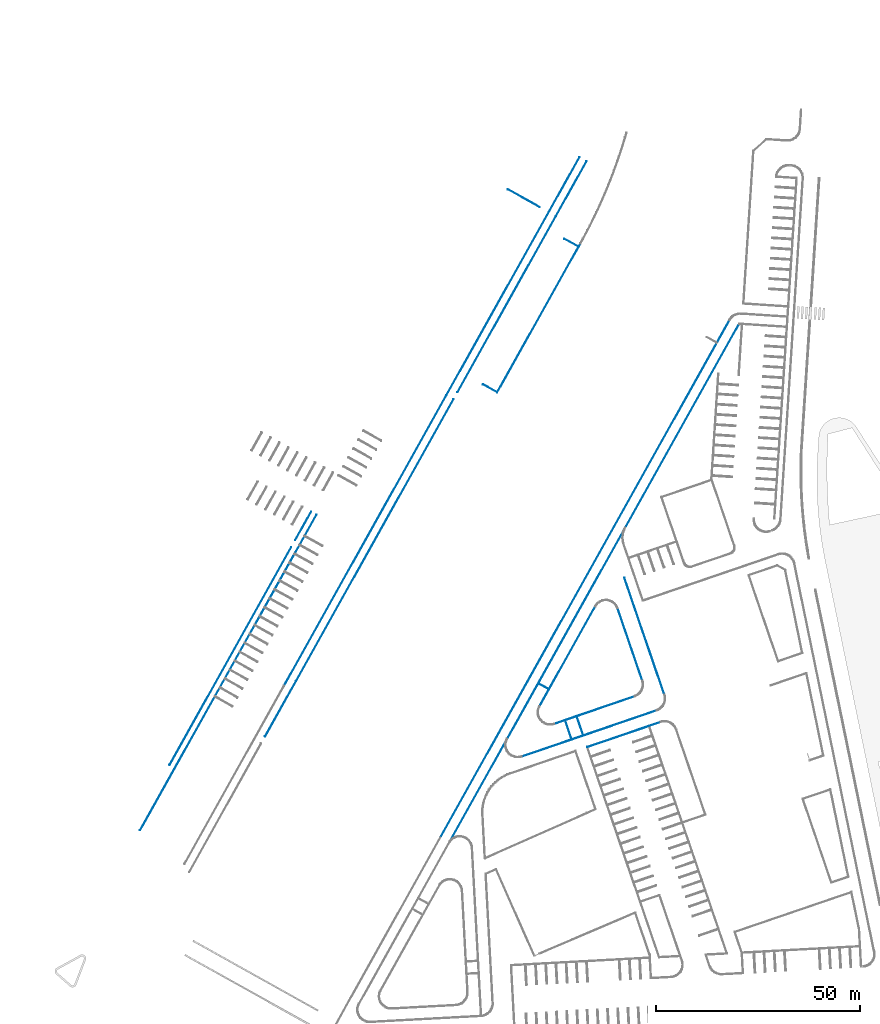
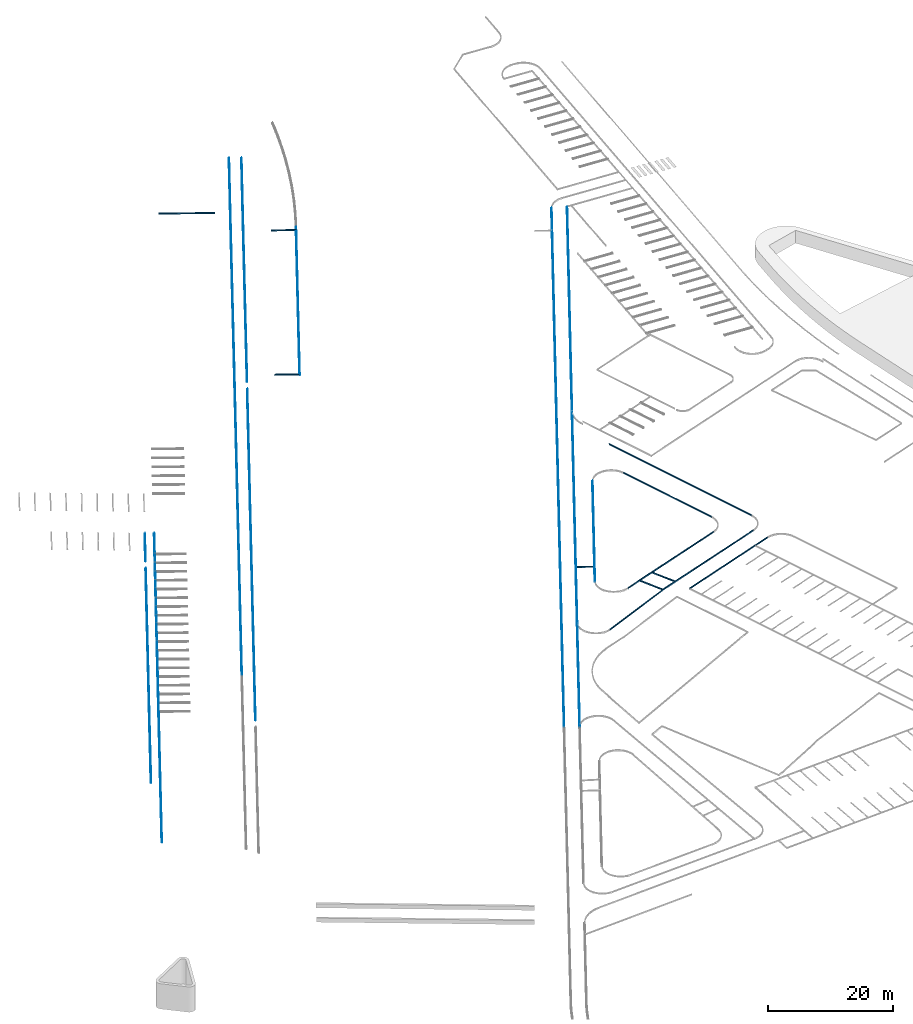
# One storey, part 5 of 112: 27 beams.
"""IFC2X3 building model written with IfcOpenShell, lengths in millimetres."""

from ifc_helpers import new_model, entity, si_unit, converted_unit, derived_unit, direction, frame, frame_2d, origin, origin_2d_with_axis, place, context, subcontext, project, spatial, polyline, rectangle, outline, extrude, material, type_object, element, save


model = new_model("IFC2X3")

# Units and contexts
model_context = context("Model", 3, precision=0.01, world=origin(), true_north=direction((6.123031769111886e-17, 1.0)))
body_context = subcontext(model_context, "Body", "Model", "MODEL_VIEW")
ifc_project = project(units=[si_unit("LENGTHUNIT", "METRE", prefix="MILLI"), si_unit("AREAUNIT", "SQUARE_METRE"), si_unit("VOLUMEUNIT", "CUBIC_METRE"), converted_unit("PLANEANGLEUNIT", "DEGREE", entity("IfcRatioMeasure", 0.017453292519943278), si_unit("PLANEANGLEUNIT", "RADIAN"), dimensions=[0, 0, 0, 0, 0, 0, 0]), si_unit("MASSUNIT", "GRAM", prefix="KILO"), derived_unit("MASSDENSITYUNIT", [(si_unit("MASSUNIT", "GRAM", prefix="KILO"), 1), (si_unit("LENGTHUNIT", "METRE"), -3)]), derived_unit("MOMENTOFINERTIAUNIT", [(si_unit("LENGTHUNIT", "METRE"), 4)]), si_unit("TIMEUNIT", "SECOND"), si_unit("FREQUENCYUNIT", "HERTZ"), si_unit("THERMODYNAMICTEMPERATUREUNIT", "DEGREE_CELSIUS"), derived_unit("THERMALTRANSMITTANCEUNIT", [(si_unit("MASSUNIT", "GRAM", prefix="KILO"), 1), (si_unit("THERMODYNAMICTEMPERATUREUNIT", "KELVIN"), -1), (si_unit("TIMEUNIT", "SECOND"), -3)]), derived_unit("THERMALCONDUCTANCEUNIT", [(si_unit("MASSUNIT", "GRAM", prefix="KILO"), 1), (si_unit("LENGTHUNIT", "METRE"), 1), (si_unit("THERMODYNAMICTEMPERATUREUNIT", "KELVIN"), -1), (si_unit("TIMEUNIT", "SECOND"), -3)]), derived_unit("VOLUMETRICFLOWRATEUNIT", [(si_unit("LENGTHUNIT", "METRE"), 3), (si_unit("TIMEUNIT", "SECOND"), -1)]), derived_unit("MASSFLOWRATEUNIT", [(si_unit("MASSUNIT", "GRAM", prefix="KILO"), 1), (si_unit("TIMEUNIT", "SECOND"), -1)]), derived_unit("ROTATIONALFREQUENCYUNIT", [(si_unit("TIMEUNIT", "SECOND"), -1)]), si_unit("ELECTRICCURRENTUNIT", "AMPERE"), si_unit("ELECTRICVOLTAGEUNIT", "VOLT"), si_unit("POWERUNIT", "WATT"), converted_unit("FORCEUNIT", "KIP", entity("IfcRatioMeasure", 2.088543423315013e-05), si_unit("FORCEUNIT", "NEWTON"), dimensions=[1, 1, -2, 0, 0, 0, 0]), si_unit("ILLUMINANCEUNIT", "LUX"), si_unit("LUMINOUSFLUXUNIT", "LUMEN"), si_unit("LUMINOUSINTENSITYUNIT", "CANDELA"), derived_unit("USERDEFINED", [(si_unit("MASSUNIT", "GRAM", prefix="KILO"), -1), (si_unit("LENGTHUNIT", "METRE"), -2), (si_unit("TIMEUNIT", "SECOND"), 3), (si_unit("LUMINOUSFLUXUNIT", "LUMEN"), 1)]), derived_unit("USERDEFINED", [(si_unit("MASSUNIT", "GRAM", prefix="KILO"), 1), (si_unit("LENGTHUNIT", "METRE"), 3), (si_unit("TIMEUNIT", "SECOND"), -3), (si_unit("ELECTRICCURRENTUNIT", "AMPERE"), -2)]), derived_unit("USERDEFINED", [(si_unit("LENGTHUNIT", "METRE"), 2), (si_unit("TIMEUNIT", "SECOND"), -2)]), derived_unit("SOUNDPOWERUNIT", [(si_unit("MASSUNIT", "GRAM", prefix="KILO"), 1), (si_unit("LENGTHUNIT", "METRE"), 2), (si_unit("TIMEUNIT", "SECOND"), -3)]), derived_unit("SOUNDPRESSUREUNIT", [(si_unit("MASSUNIT", "GRAM", prefix="KILO"), 1), (si_unit("LENGTHUNIT", "METRE"), -1), (si_unit("TIMEUNIT", "SECOND"), -2)]), derived_unit("LINEARVELOCITYUNIT", [(si_unit("LENGTHUNIT", "METRE"), 1), (si_unit("TIMEUNIT", "SECOND"), -1)]), si_unit("PRESSUREUNIT", "PASCAL"), derived_unit("USERDEFINED", [(si_unit("LENGTHUNIT", "METRE"), -2), (si_unit("MASSUNIT", "GRAM", prefix="KILO"), 1), (si_unit("TIMEUNIT", "SECOND"), -2)]), derived_unit("LINEARFORCEUNIT", [(si_unit("MASSUNIT", "GRAM", prefix="KILO"), 1), (si_unit("LENGTHUNIT", "METRE"), 1), (si_unit("TIMEUNIT", "SECOND"), -2), (si_unit("LENGTHUNIT", "METRE"), -1)]), derived_unit("PLANARFORCEUNIT", [(si_unit("MASSUNIT", "GRAM", prefix="KILO"), 1), (si_unit("LENGTHUNIT", "METRE"), 1), (si_unit("TIMEUNIT", "SECOND"), -2), (si_unit("LENGTHUNIT", "METRE"), -2)]), derived_unit("SPECIFICHEATCAPACITYUNIT", [(si_unit("LENGTHUNIT", "METRE"), 2), (si_unit("TIMEUNIT", "SECOND"), -2), (si_unit("THERMODYNAMICTEMPERATUREUNIT", "KELVIN"), -1)]), derived_unit("VAPORPERMEABILITYUNIT", [(si_unit("TIMEUNIT", "SECOND"), 1), (si_unit("LENGTHUNIT", "METRE"), -1)]), derived_unit("DYNAMICVISCOSITYUNIT", [(si_unit("MASSUNIT", "GRAM", prefix="KILO"), 1), (si_unit("LENGTHUNIT", "METRE"), -1), (si_unit("TIMEUNIT", "SECOND"), -1)]), derived_unit("THERMALEXPANSIONCOEFFICIENTUNIT", [(si_unit("THERMODYNAMICTEMPERATUREUNIT", "KELVIN"), -1)])], contexts=[model_context])

# Site, building, storey
site_placement = place(None, frame((0.0, 0.0, 0.0), z_axis=(0.0, 0.0, 1.0), x_axis=(0.8191520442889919, 0.5735764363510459, 0.0)))
site = spatial("IfcSite", under=ifc_project, at=site_placement, Name="Default", CompositionType="ELEMENT")
building_placement = place(site_placement, origin())
building = spatial("IfcBuilding", under=site, at=building_placement, CompositionType="ELEMENT")
storey_placement = place(building_placement, frame((0.0, 0.0, -3600.0)))
storey = spatial("IfcBuildingStorey", under=building, at=storey_placement, Name="0.UG -3.60", CompositionType="ELEMENT", Elevation=-3600.0000000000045)

# Beams
ifc_material_1 = material(Name="Paint-01")
beam_type_1 = type_object("IfcBeamType", Name="Beam-141 266069:Beam-141 266069", PredefinedType="NOTDEFINED")
beam_1_placement = place(storey_placement, origin())
element("IfcBeam", 1, at=beam_1_placement, inside=storey, type_object=beam_type_1, material=ifc_material_1, Name="Beam-141", ObjectType="Beam-141 266069:Beam-141 266069", context=body_context, shape_type="SweptSolid", body=[
    extrude(outline(polyline([(-4003.634629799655, -125.0), (3998.232715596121, -125.0), (4003.6346297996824, 125.0), (-3998.2327155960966, 125.0), (-4003.634629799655, -125.0)])), frame((6464.531041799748, 190311.62260502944, 1591.4014499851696), z_axis=(-0.43518770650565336, 0.9003397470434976, 0.0), x_axis=(-0.900129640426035, -0.4350861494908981, 0.021602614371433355)), (0.0, 0.0, 1.0), 99.9999999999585),
])
beam_type_2 = type_object("IfcBeamType", Name="Beam-139 262485:Beam-139 262485", PredefinedType="NOTDEFINED")
beam_2_placement = place(storey_placement, origin())
element("IfcBeam", 2, at=beam_2_placement, inside=storey, type_object=beam_type_2, material=ifc_material_1, Name="Beam-139", ObjectType="Beam-139 262485:Beam-139 262485", context=body_context, shape_type="SweptSolid", body=[
    extrude(outline(polyline([(-39504.678937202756, -125.0), (39501.5415872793, -125.0), (39504.67893720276, 125.0), (-39501.541587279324, 125.0), (-39504.678937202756, -125.0)])), frame((18814.59126865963, 177399.37722177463, 1502.0649446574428), z_axis=(-0.43518770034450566, 0.9003397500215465, 0.0), x_axis=(0.9002688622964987, 0.4351534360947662, -0.012548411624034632)), (0.0, 0.0, 1.0), 99.99999999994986),
])
beam_type_3 = type_object("IfcBeamType", Name="Beam-139 262464:Beam-139 262464", PredefinedType="NOTDEFINED")
beam_3_placement = place(storey_placement, origin())
element("IfcBeam", 3, at=beam_3_placement, inside=storey, type_object=beam_type_3, material=ifc_material_1, Name="Beam-139", ObjectType="Beam-139 262464:Beam-139 262464", context=body_context, shape_type="SweptSolid", body=[
    extrude(outline(polyline([(-7753.811935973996, -125.0), (7749.026935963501, -125.0), (7753.8119359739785, 125.0), (-7749.026935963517, 125.0), (-7753.811935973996, -125.0)])), frame((-23726.46190765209, 156836.7583377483, 2146.0881814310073), z_axis=(-0.435187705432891, 0.9003397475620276, 0.0), x_axis=(0.9001748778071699, 0.4351080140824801, -0.019136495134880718)), (0.0, 0.0, 1.0), 99.9999999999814),
])
ifc_material_2 = material(Name="Paveta_bordur")
beam_type_4 = type_object("IfcBeamType", Name="Beam-163 238237:Beam-163 238237", PredefinedType="NOTDEFINED")
beam_4_placement = place(storey_placement, origin())
element("IfcBeam", 4, at=beam_4_placement, inside=storey, type_object=beam_type_4, material=ifc_material_2, Name="Beam-163", ObjectType="Beam-163 238237:Beam-163 238237", context=body_context, shape_type="SweptSolid", body=[
    extrude(rectangle(XDim=250.00000000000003, YDim=100.0000000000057, at=frame_2d((0.0, 0.0), x_axis=(0.0, 1.0))), frame((30352.100215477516, 109835.3413734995, 1985.0), z_axis=(0.9607329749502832, -0.27747459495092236, 0.0), x_axis=(-0.27747459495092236, -0.9607329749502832, 0.0)), (0.0, 0.0, 1.0), 21950.00042866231),
])
beam_type_5 = type_object("IfcBeamType", Name="Beam-139 237474:Beam-139 237474", PredefinedType="NOTDEFINED")
beam_5_placement = place(storey_placement, origin())
element("IfcBeam", 5, at=beam_5_placement, inside=storey, type_object=beam_type_5, material=ifc_material_1, Name="Beam-139", ObjectType="Beam-139 237474:Beam-139 237474", context=body_context, shape_type="SweptSolid", body=[
    extrude(outline(polyline([(-25675.916767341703, -125.0), (25668.610046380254, -125.0), (25675.91676734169, 125.0), (-25668.61004638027, 125.0), (-25675.916767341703, -125.0)])), frame((76611.529714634, 207557.45516859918, 234.9466232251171), z_axis=(-0.43518768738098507, 0.9003397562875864, 0.0), x_axis=(0.8999554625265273, 0.43500193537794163, -0.029214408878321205)), (0.0, 0.0, 1.0), 100.00000000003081),
])
beam_type_6 = type_object("IfcBeamType", Name="Beam-139 237471:Beam-139 237471", PredefinedType="NOTDEFINED")
beam_6_placement = place(storey_placement, origin())
element("IfcBeam", 6, at=beam_6_placement, inside=storey, type_object=beam_type_6, material=ifc_material_1, Name="Beam-139", ObjectType="Beam-139 237471:Beam-139 237471", context=body_context, shape_type="SweptSolid", body=[
    extrude(outline(polyline([(-40754.60112862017, -125.0), (40751.53364395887, -125.0), (40754.601128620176, 125.0), (-40751.53364395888, 125.0), (-40754.60112862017, -125.0)])), frame((16818.41370631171, 178656.85066186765, 1484.9905908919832), z_axis=(-0.43516858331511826, 0.9003489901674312, 0.0), x_axis=(0.9002812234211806, 0.4351358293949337, -0.012269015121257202)), (0.0, 0.0, 1.0), 99.99999999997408),
])
beam_type_7 = type_object("IfcBeamType", Name="Beam-139 237467:Beam-139 237467", PredefinedType="NOTDEFINED")
beam_7_placement = place(storey_placement, origin())
element("IfcBeam", 7, at=beam_7_placement, inside=storey, type_object=beam_type_7, material=ifc_material_2, Name="Beam-139", ObjectType="Beam-139 237467:Beam-139 237467", context=body_context, shape_type="SweptSolid", body=[
    extrude(rectangle(XDim=250.00000000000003, YDim=100.00000000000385, at=frame_2d((0.0, -2.7000623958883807e-13), x_axis=(0.0, 1.0))), frame((64087.62544516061, 189897.17874019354, -1015.0), z_axis=(-0.4351876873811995, 0.9003397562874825, 0.0), x_axis=(0.9003397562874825, 0.4351876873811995, 0.0)), (0.0, 0.0, 1.0), 3999.9615939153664),
])
beam_type_8 = type_object("IfcBeamType", Name="Beam-139 237462:Beam-139 237462", PredefinedType="NOTDEFINED")
beam_8_placement = place(storey_placement, origin())
element("IfcBeam", 8, at=beam_8_placement, inside=storey, type_object=beam_type_8, material=ifc_material_2, Name="Beam-139", ObjectType="Beam-139 237462:Beam-139 237462", context=body_context, shape_type="SweptSolid", body=[
    extrude(rectangle(XDim=250.00000000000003, YDim=99.99999999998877, at=frame_2d((7.542411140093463e-12, 2.7000623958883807e-13), x_axis=(0.0, 1.0))), frame((98605.69480023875, 221020.80581464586, -515.0), z_axis=(-0.4351876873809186, 0.9003397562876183, 0.0), x_axis=(0.9003397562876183, 0.4351876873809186, 0.0)), (0.0, 0.0, 1.0), 8999.999999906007),
])
beam_type_9 = type_object("IfcBeamType", Name="Beam-139 237458:Beam-139 237458", PredefinedType="NOTDEFINED")
beam_9_placement = place(storey_placement, origin())
element("IfcBeam", 9, at=beam_9_placement, inside=storey, type_object=beam_type_9, material=ifc_material_1, Name="Beam-139", ObjectType="Beam-139 237458:Beam-139 237458", context=body_context, shape_type="SweptSolid", body=[
    extrude(outline(polyline([(-20879.003612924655, -125.0), (20877.111288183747, -125.0), (20879.003612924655, 125.0), (-20877.111288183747, 125.0), (-20879.003612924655, -125.0)])), frame((82906.19152202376, 198937.77501231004, -1166.975849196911), z_axis=(-0.43518768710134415, 0.9003397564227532, 0.0), x_axis=(-0.9003139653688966, -0.435175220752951, 0.007569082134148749)), (0.0, 0.0, 1.0), 100.000000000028),
])
beam_type_10 = type_object("IfcBeamType", Name="Beam-139 237440:Beam-139 237440", PredefinedType="NOTDEFINED")
beam_10_placement = place(storey_placement, origin())
element("IfcBeam", 10, at=beam_10_placement, inside=storey, type_object=beam_type_10, material=ifc_material_1, Name="Beam-139", ObjectType="Beam-139 237440:Beam-139 237440", context=body_context, shape_type="SweptSolid", body=[
    extrude(outline(polyline([(-24676.33221504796, -125.0), (24668.77989796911, -125.0), (24676.332215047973, 125.0), (-24668.779897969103, 125.0), (-24676.33221504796, -125.0)])), frame((78382.24484093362, 206191.96334110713, 229.9429755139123), z_axis=(-0.4351876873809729, 0.9003397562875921, 0.0), x_axis=(0.8999292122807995, 0.43498924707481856, -0.030195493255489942)), (0.0, 0.0, 1.0), 100.00000000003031),
])
beam_type_11 = type_object("IfcBeamType", Name="Beam-150 237374:Beam-150 237374", PredefinedType="NOTDEFINED")
beam_11_placement = place(storey_placement, origin())
element("IfcBeam", 11, at=beam_11_placement, inside=storey, type_object=beam_type_11, material=ifc_material_2, Name="Beam-150", ObjectType="Beam-150 237374:Beam-150 237374", context=body_context, shape_type="SweptSolid", body=[
    extrude(rectangle(XDim=250.00000000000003, YDim=100.00000000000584, at=frame_2d((0.0, 0.0), x_axis=(0.0, 1.0))), frame((28937.899458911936, 115448.1440558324, 1485.0), z_axis=(0.9607329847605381, -0.2774745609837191, 0.0), x_axis=(-0.2774745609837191, -0.9607329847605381, 0.0)), (0.0, 0.0, 1.0), 20866.079985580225),
])
beam_type_12 = type_object("IfcBeamType", Name="Beam-152 237356:Beam-152 237356", PredefinedType="NOTDEFINED")
beam_12_placement = place(storey_placement, origin())
element("IfcBeam", 12, at=beam_12_placement, inside=storey, type_object=beam_type_12, material=ifc_material_2, Name="Beam-152", ObjectType="Beam-152 237356:Beam-152 237356", context=body_context, shape_type="SweptSolid", body=[
    extrude(rectangle(XDim=250.00000000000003, YDim=99.99999999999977, at=frame_2d((6.565414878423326e-12, 0.0), x_axis=(0.0, 1.0))), frame((52699.2533715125, 111708.11284181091, 1485.0), z_axis=(0.2774745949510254, 0.9607329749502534, 0.0), x_axis=(0.9607329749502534, -0.2774745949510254, 0.0)), (0.0, 0.0, 1.0), 18726.516622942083),
])
beam_type_13 = type_object("IfcBeamType", Name="Beam-165 237349:Beam-165 237349", PredefinedType="NOTDEFINED")
beam_13_placement = place(storey_placement, origin())
element("IfcBeam", 13, at=beam_13_placement, inside=storey, type_object=beam_type_13, material=ifc_material_2, Name="Beam-165", ObjectType="Beam-165 237349:Beam-165 237349", context=body_context, shape_type="SweptSolid", body=[
    extrude(rectangle(XDim=250.00000000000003, YDim=99.99999999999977, at=frame_2d((-6.565414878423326e-12, 0.0), x_axis=(0.0, 1.0))), frame((55154.81213716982, 105794.54903538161, 1985.0), z_axis=(0.2774745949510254, 0.9607329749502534, 0.0), x_axis=(0.9607329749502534, -0.2774745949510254, 0.0)), (0.0, 0.0, 1.0), 30279.959518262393),
])
beam_type_14 = type_object("IfcBeamType", Name="Beam-160 237341:Beam-160 237341", PredefinedType="NOTDEFINED")
beam_14_placement = place(storey_placement, origin())
element("IfcBeam", 14, at=beam_14_placement, inside=storey, type_object=beam_type_14, material=ifc_material_2, Name="Beam-160", ObjectType="Beam-160 237341:Beam-160 237341", context=body_context, shape_type="SweptSolid", body=[
    extrude(rectangle(XDim=250.00000000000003, YDim=99.99999999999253, at=origin_2d_with_axis()), frame((28464.760079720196, 121031.36227897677, 1485.0), z_axis=(0.9003397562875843, 0.4351876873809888, 0.0), x_axis=(0.0, 0.0, -1.0)), (0.0, 0.0, 1.0), 28037.042397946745),
])
beam_type_15 = type_object("IfcBeamType", Name="Beam-163 237327:Beam-163 237327", PredefinedType="NOTDEFINED")
beam_15_placement = place(storey_placement, origin())
element("IfcBeam", 15, at=beam_15_placement, inside=storey, type_object=beam_type_15, material=ifc_material_1, Name="Beam-163", ObjectType="Beam-163 237327:Beam-163 237327", context=body_context, shape_type="SweptSolid", body=[
    extrude(outline(polyline([(-6499.050967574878, -125.0), (6518.313005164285, -125.0), (6499.050967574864, 125.0), (-6518.313005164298, 125.0), (-6499.050967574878, -125.0)])), frame((24103.599369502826, 111587.96180518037, 1484.6295229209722), z_axis=(0.2774745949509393, 0.9607329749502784, 0.0), x_axis=(0.9578939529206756, -0.2766546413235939, 0.07682046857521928)), (0.0, 0.0, 1.0), 100.00000000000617),
])
beam_type_16 = type_object("IfcBeamType", Name="Beam-157 237278:Beam-157 237278", PredefinedType="NOTDEFINED")
beam_16_placement = place(storey_placement, origin())
element("IfcBeam", 16, at=beam_16_placement, inside=storey, type_object=beam_type_16, material=ifc_material_2, Name="Beam-157", ObjectType="Beam-157 237278:Beam-157 237278", context=body_context, shape_type="SweptSolid", body=[
    extrude(rectangle(XDim=250.00000000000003, YDim=100.0000000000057, at=origin_2d_with_axis()), frame((32353.839149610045, 106134.5922656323, 1985.0), z_axis=(0.9607329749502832, -0.27747459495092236, 0.0), x_axis=(0.0, 0.0, -1.0)), (0.0, 0.0, 1.0), 18999.99999999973),
])
beam_type_17 = type_object("IfcBeamType", Name="Beam-163 237164:Beam-163 237164", PredefinedType="NOTDEFINED")
beam_17_placement = place(storey_placement, origin())
element("IfcBeam", 17, at=beam_17_placement, inside=storey, type_object=beam_type_17, material=ifc_material_1, Name="Beam-163", ObjectType="Beam-163 237164:Beam-163 237164", context=body_context, shape_type="SweptSolid", body=[
    extrude(outline(polyline([(-2500.222331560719, -125.0), (2525.7235780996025, -125.0), (2500.2223315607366, 125.0), (-2525.7235780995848, 125.0), (-2500.222331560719, -125.0)])), frame((30949.71363277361, 112264.92078700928, 1729.338869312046), z_axis=(0.9607329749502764, -0.2774745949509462, 0.0), x_axis=(-0.27604219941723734, -0.9557734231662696, 0.10147841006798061)), (0.0, 0.0, 1.0), 99.99999999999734),
])
beam_type_18 = type_object("IfcBeamType", Name="Beam-164 237161:Beam-164 237161", PredefinedType="NOTDEFINED")
beam_18_placement = place(storey_placement, origin())
element("IfcBeam", 18, at=beam_18_placement, inside=storey, type_object=beam_type_18, material=ifc_material_1, Name="Beam-164", ObjectType="Beam-164 237161:Beam-164 237161", context=body_context, shape_type="SweptSolid", body=[
    extrude(outline(polyline([(-2499.9692976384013, -125.0), (2524.969293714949, -125.0), (2499.9692976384, 125.0), (-2524.969293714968, 125.0), (-2499.9692976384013, -125.0)])), frame((33831.91248506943, 111432.49707643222, 1734.3765549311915), z_axis=(0.9607329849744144, -0.27747456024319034, 0.0), x_axis=(0.2760975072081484, 0.955965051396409, -0.09950370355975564)), (0.0, 0.0, 1.0), 99.99999999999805),
])
beam_type_19 = type_object("IfcBeamType", Name="Beam-160 237145:Beam-160 237145", PredefinedType="NOTDEFINED")
beam_19_placement = place(storey_placement, origin())
element("IfcBeam", 19, at=beam_19_placement, inside=storey, type_object=beam_type_19, material=ifc_material_2, Name="Beam-160", ObjectType="Beam-160 237145:Beam-160 237145", context=body_context, shape_type="SweptSolid", body=[
    extrude(rectangle(XDim=250.00000000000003, YDim=100.00000000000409, at=frame_2d((2.7000623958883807e-13, 7.666756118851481e-12), x_axis=(1.0, 0.0))), frame((32765.711525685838, 123110.2676035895, 985.0), z_axis=(-0.4351876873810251, 0.9003397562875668, 0.0), x_axis=(0.0, 0.0, -1.0)), (0.0, 0.0, 1.0), 2899.999999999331),
])
beam_type_20 = type_object("IfcBeamType", Name="Beam-161 237090:Beam-161 237090", PredefinedType="NOTDEFINED")
beam_20_placement = place(storey_placement, origin())
element("IfcBeam", 20, at=beam_20_placement, inside=storey, type_object=beam_type_20, material=ifc_material_2, Name="Beam-161", ObjectType="Beam-161 237090:Beam-161 237090", context=body_context, shape_type="SweptSolid", body=[
    extrude(rectangle(XDim=250.00000000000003, YDim=99.99999999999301, at=frame_2d((2.7000623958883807e-13, 1.866240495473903e-11), x_axis=(1.0, 0.0))), frame((-8759.855043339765, 106370.56997599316, 985.0), z_axis=(0.9003397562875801, 0.43518768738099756, 0.0), x_axis=(0.0, 0.0, -1.0)), (0.0, 0.0, 1.0), 145446.1136690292),
])
beam_type_21 = type_object("IfcBeamType", Name="Beam-139 236877:Beam-139 236877", PredefinedType="NOTDEFINED")
beam_21_placement = place(storey_placement, origin())
element("IfcBeam", 21, at=beam_21_placement, inside=storey, type_object=beam_type_21, material=ifc_material_1, Name="Beam-139", ObjectType="Beam-139 236877:Beam-139 236877", context=body_context, shape_type="SweptSolid", body=[
    extrude(outline(polyline([(-30504.524038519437, -125.0), (30501.122399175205, -125.0), (30504.524038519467, 125.0), (-30501.122399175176, 125.0), (-30504.524038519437, -125.0)])), frame((-26397.869430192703, 174427.27073018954, 2072.849683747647), z_axis=(-0.43518768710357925, 0.9003397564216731, 0.0), x_axis=(-0.9002564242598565, -0.43514740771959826, 0.013605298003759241)), (0.0, 0.0, 1.0), 99.99999999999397),
])
beam_type_22 = type_object("IfcBeamType", Name="Beam-139 236876:Beam-139 236876", PredefinedType="NOTDEFINED")
beam_22_placement = place(storey_placement, origin())
element("IfcBeam", 22, at=beam_22_placement, inside=storey, type_object=beam_type_22, material=ifc_material_1, Name="Beam-139", ObjectType="Beam-139 236876:Beam-139 236876", context=body_context, shape_type="SweptSolid", body=[
    extrude(outline(polyline([(-44258.47206360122, -125.0), (44254.235363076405, -125.0), (44258.47206360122, 125.0), (-44254.23536307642, 125.0), (-44258.47206360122, -125.0)])), frame((-29121.361991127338, 171444.80725477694, 2271.655095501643), z_axis=(-0.4351876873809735, 0.9003397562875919, 0.0), x_axis=(-0.9002104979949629, -0.43512520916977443, 0.016944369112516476)), (0.0, 0.0, 1.0), 100.00000000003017),
])
beam_type_23 = type_object("IfcBeamType", Name="Beam-139 228031:Beam-139 228031", PredefinedType="NOTDEFINED")
beam_23_placement = place(storey_placement, origin())
element("IfcBeam", 23, at=beam_23_placement, inside=storey, type_object=beam_type_23, material=ifc_material_2, Name="Beam-139", ObjectType="Beam-139 228031:Beam-139 228031", context=body_context, shape_type="SweptSolid", body=[
    extrude(rectangle(XDim=250.00000000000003, YDim=99.9999999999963, at=frame_2d((-1.936939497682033e-11, 2.7000623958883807e-13), x_axis=(0.0, 1.0))), frame((100564.03939345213, 216969.2769113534, -515.0), z_axis=(0.9003397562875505, 0.43518768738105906, 0.0), x_axis=(0.43518768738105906, -0.9003397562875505, 0.0)), (0.0, 0.0, 1.0), 15423.808694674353),
])
beam_type_24 = type_object("IfcBeamType", Name="Beam-178 219178:Beam-178 219178", PredefinedType="NOTDEFINED")
beam_24_placement = place(storey_placement, origin())
element("IfcBeam", 24, at=beam_24_placement, inside=storey, type_object=beam_type_24, material=ifc_material_2, Name="Beam-178", ObjectType="Beam-178 219178:Beam-178 219178", context=body_context, shape_type="SweptSolid", body=[
    extrude(rectangle(XDim=250.00000000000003, YDim=100.00000000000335, at=frame_2d((0.0, -2.7000623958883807e-13), x_axis=(0.0, 1.0))), frame((-9847.882023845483, 108621.0401072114, 995.0), z_axis=(0.9003387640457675, 0.435189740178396, 0.0), x_axis=(0.435189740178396, -0.9003387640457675, 0.0)), (0.0, 0.0, 1.0), 145130.6016764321),
])
beam_type_25 = type_object("IfcBeamType", Name="Beam-141 211486:Beam-141 211486", PredefinedType="NOTDEFINED")
beam_25_placement = place(storey_placement, origin())
element("IfcBeam", 25, at=beam_25_placement, inside=storey, type_object=beam_type_25, material=ifc_material_1, Name="Beam-141", ObjectType="Beam-141 211486:Beam-141 211486", context=body_context, shape_type="SweptSolid", body=[
    extrude(outline(polyline([(-30507.06665566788, -125.0), (30502.612823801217, -125.0), (30507.066655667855, 125.0), (-30502.6128238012, 125.0), (-30507.06665566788, -125.0)])), frame((-26397.86971525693, 174427.27132242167, 2218.3476524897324), z_axis=(-0.43518770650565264, 0.9003397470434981, 0.0), x_axis=(-0.9001969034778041, -0.4351186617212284, 0.017812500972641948)), (0.0, 0.0, 1.0), 100.00000000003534),
])
beam_type_26 = type_object("IfcBeamType", Name="Beam-140 182489:Beam-140 182489", PredefinedType="NOTDEFINED")
beam_26_placement = place(storey_placement, origin())
element("IfcBeam", 26, at=beam_26_placement, inside=storey, type_object=beam_type_26, material=ifc_material_1, Name="Beam-140", ObjectType="Beam-140 182489:Beam-140 182489", context=body_context, shape_type="SweptSolid", body=[
    extrude(outline(polyline([(-1999.0714514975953, -125.0), (2000.9637762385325, -125.0), (1999.0714514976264, 125.0), (-2000.9637762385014, 125.0), (-1999.0714514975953, -125.0)])), frame((99906.11069898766, 209431.7199499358, -1309.8652832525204), z_axis=(0.9003397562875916, 0.435187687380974, 0.0), x_axis=(0.4351752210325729, -0.9003139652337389, 0.007569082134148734)), (0.0, 0.0, 1.0), 99.99999999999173),
])
beam_type_27 = type_object("IfcBeamType", Name="Beam-139 83593:Beam-139 83593", PredefinedType="NOTDEFINED")
beam_27_placement = place(storey_placement, origin())
element("IfcBeam", 27, at=beam_27_placement, inside=storey, type_object=beam_type_27, material=ifc_material_2, Name="Beam-139", ObjectType="Beam-139 83593:Beam-139 83593", context=body_context, shape_type="SweptSolid", body=[
    extrude(rectangle(XDim=250.00000000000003, YDim=99.9999999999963, at=frame_2d((-1.936939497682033e-11, 2.7000623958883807e-13), x_axis=(0.0, 1.0))), frame((99693.66401868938, 218769.9564239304, -515.0), z_axis=(0.9003397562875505, 0.43518768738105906, 0.0), x_axis=(0.43518768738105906, -0.9003397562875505, 0.0)), (0.0, 0.0, 1.0), 15423.798335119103),
])

save(model, "model.ifc")
